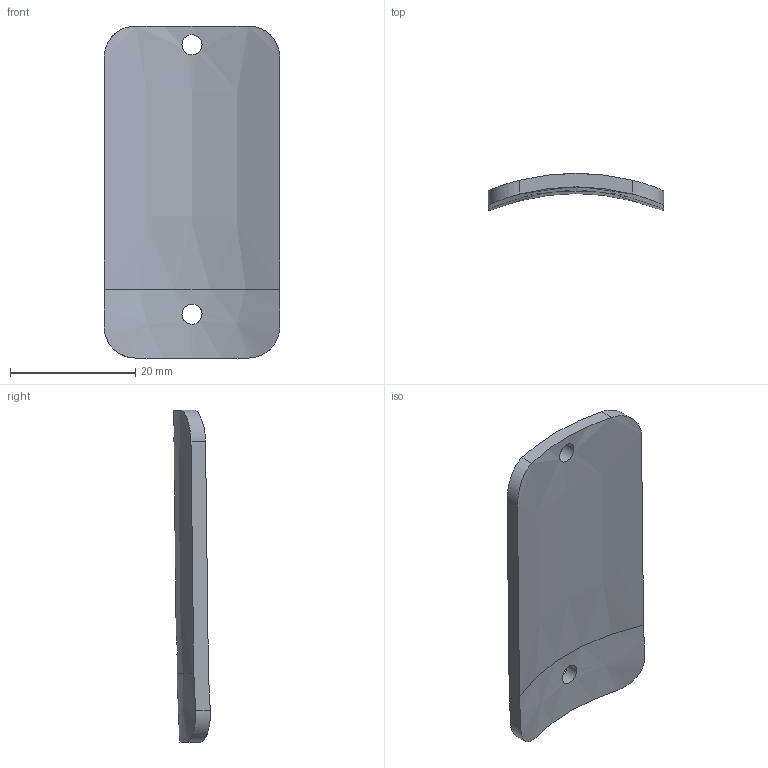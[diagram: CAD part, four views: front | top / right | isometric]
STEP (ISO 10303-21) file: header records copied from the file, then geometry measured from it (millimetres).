
FILE_DESCRIPTION(('FreeCAD Model'),'2;1');
FILE_NAME('Open CASCADE Shape Model','2026-09-19T17:54:12',('FreeCAD'),( 'FreeCAD'),'Open CASCADE STEP processor 7.8','FreeCAD','Unknown');
FILE_SCHEMA(('AUTOMOTIVE_DESIGN { 1 0 10303 214 1 1 1 1 }'));
Length unit declared in the file: millimetre
Products named in the file (1): Open CASCADE STEP translator 7.8 2
Bounding box: 28 x 5.86 x 53 mm (x, y, z)
Volume: 3181.3 mm3; surface area: 3375.9 mm2
Topology: 1 solids, 1 shells, 18 faces, 45 edges, 30 vertices
Faces by surface type: plane 7, cylinder 6, cone 5
Full cylindrical faces by diameter (mm): 3.2 x2
Entity records: 1303 total; most frequent: CARTESIAN_POINT 866, ORIENTED_EDGE 90, DIRECTION 83, EDGE_CURVE 45, AXIS2_PLACEMENT_3D 35, VERTEX_POINT 30, FACE_BOUND 23, EDGE_LOOP 23
